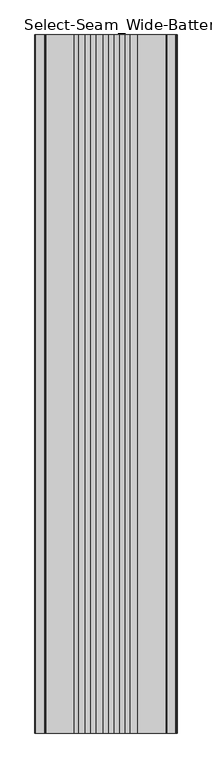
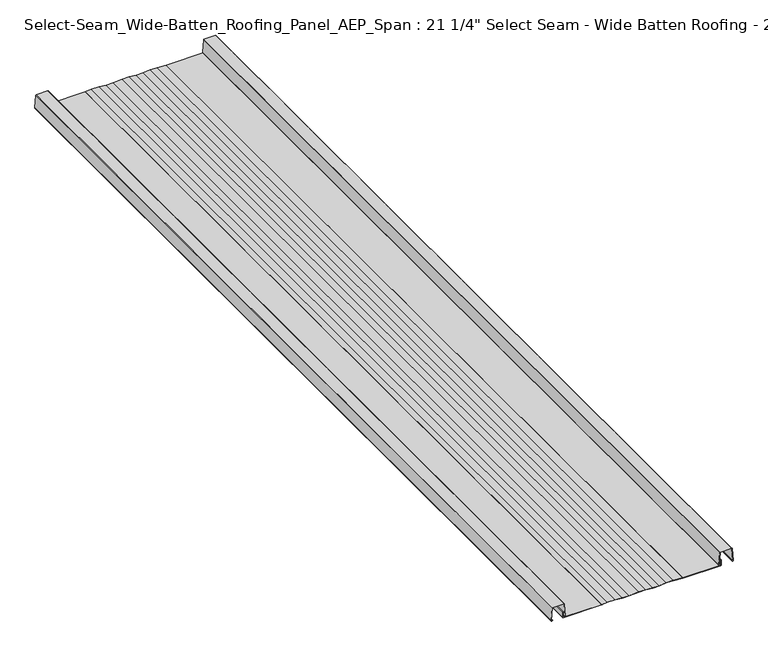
"""IFC4 building model written with IfcOpenShell, lengths in millimetres: proxy geometry."""

from ifc_helpers import new_model, si_unit, point, frame, frame_2d, origin, place, context, project, spatial, polyline, circle_curve, trimmed, segment, composite_curve, outline, extrude, source, transform, mapped, element, save
from ifc_brep_helpers import plane_surface, cylinder_surface, revolved_surface, advanced_brep


def proxy_5037e488(model_context):
    return source(origin(), model_context, "Body", "SolidModel", [
        extrude(outline(composite_curve([segment(polyline([(0.0, 144.0825265), (0.0, 273.8839983)]), True, "CONTINUOUS"), segment(trimmed(circle_curve(frame_2d((1.8096799, 273.8839983)), 1.8096799), [point((0.0, 273.8839983))], [point((1.8096799, 275.6936782))], False, "CARTESIAN"), True, "CONTINUOUS"), segment(polyline([(1.8096799, 275.6936782), (20.7458894, 275.6936782), (20.7458894, 274.9113582), (1.8096799, 274.9113582)]), True, "CONTINUOUS"), segment(trimmed(circle_curve(frame_2d((1.8096799, 273.8954283)), 1.0159299), [point((1.8096799, 274.9113582))], [point((0.79375, 273.8954283))], True, "CARTESIAN"), True, "CONTINUOUS"), segment(polyline([(0.79375, 273.8954283), (0.79375, 144.0825265), (0.0, 144.0825265)]), True, "CONTINUOUS")], self_intersect=False)), frame((0.0, -3048.0, 0.0), z_axis=(0.0, 1.0, 0.0), x_axis=(0.0, 0.0, 1.0)), (0.0, 0.0, 1.0), 3048.0),
        extrude(outline(polyline([(0.0, -132.4451702), (2.0434874, -112.7643407), (2.0434874, -84.8610195), (0.0, -61.0689441), (0.0, -37.2768688), (2.0434874, -6.0773595), (2.0434874, 17.7147158), (0.0, 41.5067912), (0.0, 65.2988665), (2.0434874, 89.0909419), (2.0434874, 112.8830172), (0.0, 144.0825265), (0.78232, 144.0825265), (2.7902474, 112.9150277), (2.7902474, 89.0589314), (0.74676, 65.2668561), (0.74676, 41.5388016), (2.7902474, 17.7467263), (2.7902474, -6.10937), (0.74676, -37.3088793), (0.74676, -61.0369337), (2.7902474, -84.829009), (2.7902474, -112.8030053), (0.78232, -132.4451702), (0.0, -132.4451702)])), frame((0.0, -3048.0, 0.0), z_axis=(0.0, 1.0, 0.0), x_axis=(0.0, 0.0, 1.0)), (0.0, 0.0, 1.0), 3048.0),
        extrude(outline(composite_curve([segment(trimmed(circle_curve(frame_2d((2.9867257, -257.0989435)), 1.5958376), [point((1.679492, -258.0142783))], [point((3.1119337, -255.5080253))], False, "CARTESIAN"), True, "CONTINUOUS"), segment(polyline([(3.1119337, -255.5080253), (48.1630451, -259.0536246)]), True, "CONTINUOUS"), segment(trimmed(circle_curve(frame_2d((48.0691392, -260.2468133)), 1.1968782), [point((48.1630451, -259.0536246))], [point((49.2660174, -260.2468133))], False, "CARTESIAN"), True, "CONTINUOUS"), segment(polyline([(49.2660174, -260.2468133), (49.2660174, -299.5258263)]), True, "CONTINUOUS"), segment(trimmed(circle_curve(frame_2d((48.0691392, -299.5258263)), 1.1968782), [point((49.2660174, -299.5258263))], [point((48.1630451, -300.719015))], False, "CARTESIAN"), True, "CONTINUOUS"), segment(polyline([(48.1630451, -300.719015), (3.1119337, -304.2646144)]), True, "CONTINUOUS"), segment(trimmed(circle_curve(frame_2d((2.9867257, -302.6736962)), 1.5958376), [point((3.1119337, -304.2646144))], [point((1.679492, -301.7583613))], False, "CARTESIAN"), True, "CONTINUOUS"), segment(polyline([(1.679492, -301.7583613), (3.6192921, -298.9880396), (4.2606393, -299.4371158), (2.2340548, -302.2682998)]), True, "CONTINUOUS"), segment(trimmed(circle_curve(frame_2d((2.8910866, -302.7283584)), 0.8020876), [point((2.2340548, -302.2682998))], [point((2.9540176, -303.5279735))], True, "CARTESIAN"), True, "CONTINUOUS"), segment(polyline([(2.9540176, -303.5279735), (48.5192574, -299.9419114), (48.5192574, -259.8307283), (3.0147274, -256.2494441)]), True, "CONTINUOUS"), segment(trimmed(circle_curve(frame_2d((2.9517963, -257.0490592)), 0.8020876), [point((3.0147274, -256.2494441))], [point((2.2947646, -257.5091178))], True, "CARTESIAN"), True, "CONTINUOUS"), segment(polyline([(2.2947646, -257.5091178), (4.2904637, -260.3146406), (3.6192921, -260.7846), (1.679492, -258.0142783)]), True, "CONTINUOUS")], self_intersect=False)), frame((0.0, -3048.0, 0.0), z_axis=(0.0, 1.0, 0.0), x_axis=(0.0, 0.0, 1.0)), (0.0, 0.0, 1.0), 3048.0),
        advanced_brep(
        [(313.6524745, -3048.0, 1.679492), (316.1587276, -3048.0, 3.1119337), (312.6131283, -3048.0, 48.1630451), (311.4199396, -3048.0, 49.2660174), (272.1409266, -3048.0, 49.2660174), (270.9477379, -3048.0, 48.1630451), (267.4021385, -3048.0, 3.1119337), (269.9083916, -3048.0, 1.679492), (272.6787133, -3048.0, 3.6192921), (272.2237948, -3048.0, 4.2689831), (269.4895099, -3048.0, 2.2980083), (268.1494428, -3048.0, 3.0531195), (271.7248415, -3048.0, 48.5192574), (311.8360246, -3048.0, 48.5192574), (315.4070399, -3048.0, 3.1452062), (313.9293096, -3048.0, 2.3972757), (311.3332739, -3048.0, 4.2635596), (310.8821529, -3048.0, 3.6192921), (313.6524745, 0.0, 1.679492), (310.8821529, 0.0, 3.6192921), (311.3332739, 0.0, 4.2635596), (313.9293096, 0.0, 2.3972757), (315.4070399, 0.0, 3.1452062), (311.8360246, 0.0, 48.5192574), (271.7248415, 0.0, 48.5192574), (268.1465965, 0.0, 3.0533436), (269.4878871, 0.0, 2.3002597), (272.2237948, 0.0, 4.2689831), (272.6787133, 0.0, 3.6192921), (269.9083916, 0.0, 1.679492), (267.4021385, 0.0, 3.1119337), (270.9477379, 0.0, 48.1630451), (272.1409266, 0.0, 49.2660174), (311.4199396, 0.0, 49.2660174), (312.6131283, 0.0, 48.1630451), (316.1587276, 0.0, 3.1119337)],
        [
            (0, 1, circle_curve(frame((314.5678094, -3048.0, 2.9867257), z_axis=(0.0, -1.0, 0.0), x_axis=(1.0, 0.0, 0.0)), 1.5958376)),
            (1, 2),
            (2, 3, circle_curve(frame((311.4199396, -3048.0, 48.0691392), z_axis=(0.0, -1.0, 0.0), x_axis=(1.0, 0.0, 0.0)), 1.1968782)),
            (3, 4),
            (4, 5, circle_curve(frame((272.1409266, -3048.0, 48.0691392), z_axis=(0.0, -1.0, 0.0), x_axis=(1.0, 0.0, 0.0)), 1.1968782)),
            (5, 6),
            (6, 7, circle_curve(frame((268.9930567, -3048.0, 2.9867257), z_axis=(0.0, -1.0, 0.0), x_axis=(1.0, 0.0, 0.0)), 1.5958376)),
            (7, 8),
            (8, 9),
            (9, 10),
            (10, 11, circle_curve(frame((268.9930567, -3048.0, 2.9867257), z_axis=(0.0, 1.0, 0.0), x_axis=(1.0, 0.0, 0.0)), 0.8462226)),
            (11, 12),
            (12, 13),
            (13, 14),
            (14, 15, circle_curve(frame((314.514453, -3048.0, 3.0749581), z_axis=(0.0, 1.0, 0.0), x_axis=(1.0, 0.0, 0.0)), 0.895347)),
            (15, 16),
            (16, 17),
            (17, 0),
            (18, 19),
            (19, 20),
            (20, 21),
            (21, 22, circle_curve(frame((314.514453, 0.0, 3.0749581), z_axis=(0.0, -1.0, 0.0), x_axis=(1.0, 0.0, 0.0)), 0.895347)),
            (22, 23),
            (23, 24),
            (24, 25),
            (25, 26, circle_curve(frame((268.9930567, 0.0, 2.9867257), z_axis=(0.0, -1.0, 0.0), x_axis=(1.0, 0.0, 0.0)), 0.8462226)),
            (26, 27),
            (27, 28),
            (28, 29),
            (29, 30, circle_curve(frame((268.9930567, 0.0, 2.9867257), z_axis=(0.0, 1.0, 0.0), x_axis=(1.0, 0.0, 0.0)), 1.5958376)),
            (30, 31),
            (31, 32, circle_curve(frame((272.1409266, 0.0, 48.0691392), z_axis=(0.0, 1.0, 0.0), x_axis=(1.0, 0.0, 0.0)), 1.1968782)),
            (32, 33),
            (33, 34, circle_curve(frame((311.4199396, 0.0, 48.0691392), z_axis=(0.0, 1.0, 0.0), x_axis=(1.0, 0.0, 0.0)), 1.1968782)),
            (34, 35),
            (35, 18, circle_curve(frame((314.5678094, 0.0, 2.9867257), z_axis=(0.0, 1.0, 0.0), x_axis=(1.0, 0.0, 0.0)), 1.5958376)),
            (0, 18),
            (35, 1),
            (34, 2),
            (33, 3),
            (32, 4),
            (31, 5),
            (30, 6),
            (29, 7),
            (28, 8),
            (11, 25),
            (24, 12),
            (23, 13),
            (22, 14),
            (21, 15),
            (17, 19),
            (27, 9),
            (26, 10),
            (20, 16),
        ],
        [
            plane_surface(frame((316.1636471, -3048.0, 2.9867257), z_axis=(0.0, -1.0, 0.0), x_axis=(0.0, 0.0, 1.0))),
            plane_surface(frame((316.1636471, 0.0, 2.9867257), z_axis=(0.0, 1.0, 0.0), x_axis=(0.0, 0.0, -1.0))),
            cylinder_surface(frame((314.5678094, 0.0, 2.9867257), z_axis=(0.0, -1.0, 0.0), x_axis=(1.0, 0.0, 0.0)), 1.5958376),
            plane_surface(frame((316.1587276, -3048.0, 3.1119337), z_axis=(0.99691733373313, 0.0, 0.07845909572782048), x_axis=(0.0, 1.0, 0.0))),
            cylinder_surface(frame((311.4199396, 0.0, 48.0691392), z_axis=(0.0, -1.0, 0.0), x_axis=(1.0, 0.0, 0.0)), 1.1968782),
            plane_surface(frame((311.4199396, -3048.0, 49.2660174), z_axis=(0.0, 0.0, 1.0), x_axis=(0.0, 1.0, 0.0))),
            cylinder_surface(frame((272.1409266, 0.0, 48.0691392), z_axis=(0.0, -1.0, 0.0), x_axis=(1.0, 0.0, 0.0)), 1.1968782),
            plane_surface(frame((270.9477379, -3048.0, 48.1630451), z_axis=(-0.9969173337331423, 0.0, 0.07845909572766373), x_axis=(0.0, 1.0, 0.0))),
            cylinder_surface(frame((268.9930567, 0.0, 2.9867257), z_axis=(0.0, -1.0, 0.0), x_axis=(1.0, 0.0, 0.0)), 1.5958376),
            plane_surface(frame((269.9083916, -3048.0, 1.679492), z_axis=(0.5735764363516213, 0.0, -0.819152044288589), x_axis=(0.0, 1.0, 0.0))),
            plane_surface(frame((268.1465965, -3048.0, 3.0533436), z_axis=(0.9969173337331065, 0.0, -0.07845909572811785), x_axis=(0.0, 1.0, 0.0))),
            plane_surface(frame((271.7248415, -3048.0, 48.5192574), z_axis=(0.0, 0.0, -1.0), x_axis=(0.0, 1.0, 0.0))),
            plane_surface(frame((311.8360246, -3048.0, 48.5192574), z_axis=(-0.9969173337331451, 0.0, -0.07845909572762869), x_axis=(0.0, 1.0, 0.0))),
            revolved_surface(polyline([(315.4098, 0.0, 3.0749581), (315.4098, -3048.0, 3.0749581)]), (314.514453, 0.0, 3.0749581), (0.0, 1.0, 0.0)),
            plane_surface(frame((310.8821529, -3048.0, 3.6192921), z_axis=(-0.5735764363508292, 0.0, -0.8191520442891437), x_axis=(0.0, 1.0, 0.0))),
            plane_surface(frame((272.6787133, -3048.0, 3.6192921), z_axis=(0.8191520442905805, 0.0, 0.5735764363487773), x_axis=(0.0, 1.0, 0.0))),
            plane_surface(frame((272.2237948, -3048.0, 4.2689831), z_axis=(-0.5847520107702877, 0.0, 0.811212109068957), x_axis=(0.0, 1.0, 0.0))),
            revolved_surface(polyline([(269.8392793, 0.0, 2.9867257), (269.8392793, -3048.0, 2.9867257)]), (268.9930567, 0.0, 2.9867257), (0.0, 1.0, 0.0)),
            plane_surface(frame((313.9293096, -3048.0, 2.3972757), z_axis=(0.5837150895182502, 0.0, 0.8119585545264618), x_axis=(0.0, 1.0, 0.0))),
            plane_surface(frame((311.3332739, -3048.0, 4.2635596), z_axis=(-0.8191520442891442, 0.0, 0.5735764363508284), x_axis=(0.0, 1.0, 0.0))),
        ],
        [
            (0, [[1, 2, 3, 4, 5, 6, 7, 8, 9, 10, 11, 12, 13, 14, 15, 16, 17, 18]]),
            (1, [[19, 20, 21, 22, 23, 24, 25, 26, 27, 28, 29, 30, 31, 32, 33, 34, 35, 36]]),
            (2, [[-1, 37, -36, 38]]),
            (3, [[-2, -38, -35, 39]]),
            (4, [[-3, -39, -34, 40]]),
            (5, [[-4, -40, -33, 41]]),
            (6, [[-5, -41, -32, 42]]),
            (7, [[-6, -42, -31, 43]]),
            (8, [[-7, -43, -30, 44]]),
            (9, [[-8, -44, -29, 45]]),
            (10, [[-12, 46, -25, 47]]),
            (11, [[-13, -47, -24, 48]]),
            (12, [[-14, -48, -23, 49]]),
            (13, [[-15, -49, -22, 50]]),
            (14, [[-18, 51, -19, -37]]),
            (15, [[-9, -45, -28, 52]]),
            (16, [[-10, -52, -27, 53]]),
            (17, [[-11, -53, -26, -46]]),
            (18, [[-16, -50, -21, 54]]),
            (19, [[-17, -54, -20, -51]]),
        ],
    ),
        extrude(outline(composite_curve([segment(polyline([(20.7458894, -264.0563218), (0.9605486, -264.0563218)]), True, "CONTINUOUS"), segment(trimmed(circle_curve(frame_2d((0.9605486, -263.0957733)), 0.9605486), [point((0.9605486, -264.0563218))], [point((0.0, -263.0957733))], False, "CARTESIAN"), True, "CONTINUOUS"), segment(polyline([(0.0, -263.0957733), (0.0, -132.4451702), (0.78232, -132.4451702), (0.78232, -263.2739922), (20.7458894, -263.2739922), (20.7458894, -264.0563218)]), True, "CONTINUOUS")], self_intersect=False)), frame((0.0, -3048.0, 0.0), z_axis=(0.0, 1.0, 0.0), x_axis=(0.0, 0.0, 1.0)), (0.0, 0.0, 1.0), 3048.0),
    ])


if __name__ == "__main__":
    model = new_model("IFC4")
    model_context = context("Model", 3, world=origin())
    ifc_project = project(units=[si_unit("LENGTHUNIT", "METRE", prefix="MILLI")], contexts=[model_context])
    site = spatial("IfcSite", under=ifc_project)
    building = spatial("IfcBuilding", under=site)
    placement = place(None, origin())
    proxy_shape = proxy_5037e488(model_context)
    element("IfcBuildingElementProxy", 1, Name="Select-Seam_Wide-Batten_Roofing_Panel_AEP_Span : 21 1/4\" Select Seam - Wide Batten Roofing - 22ga", ObjectType="Select-Seam_Wide-Batten_Roofing_Panel_AEP_Span : 21 1/4\" Select Seam - Wide Batten Roofing - 22ga", at=placement, inside=building, context=model_context, shape_type="MappedRepresentation", body=[
        mapped(proxy_shape, transform((0.0, 0.0, 0.0), x_axis=(1.0, 0.0, 0.0), y_axis=(0.0, 1.0, 0.0), z_axis=(0.0, 0.0, 1.0))),
    ])
    save(model, "model.ifc")
